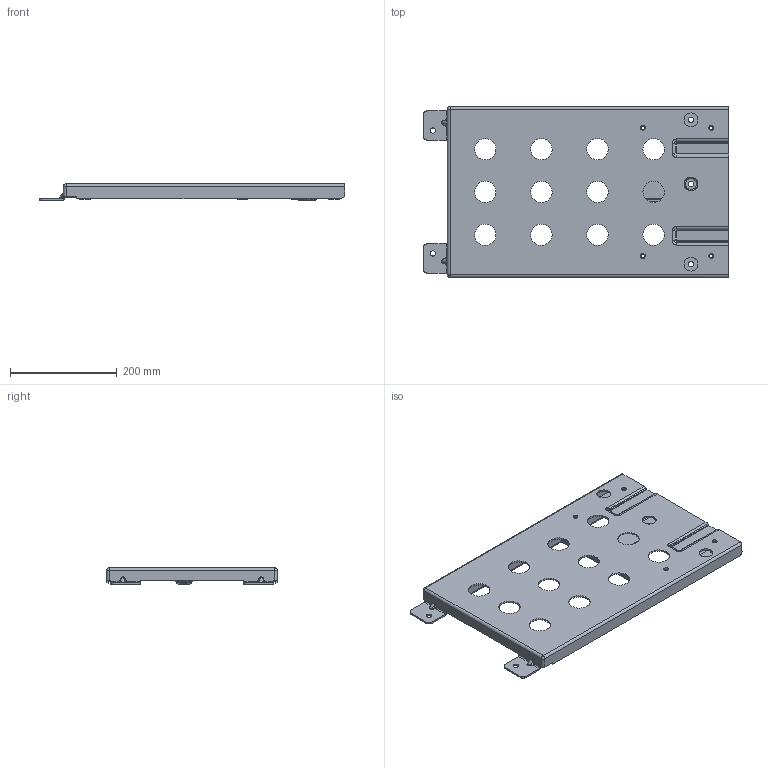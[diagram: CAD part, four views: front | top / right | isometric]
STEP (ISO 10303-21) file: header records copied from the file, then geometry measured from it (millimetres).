
FILE_DESCRIPTION(('CATIA V5 STEP Exchange'),'2;1');
FILE_NAME('E:\吉利商用车G3\3D\新开件\SHT0015318.stp','2022-12-12T02:28:13+00:00',('none'),('none'),'CATIA Version 5 Release 20 GA (IN-10)','CATIA V5 STEP AP214','none');
FILE_SCHEMA(('AUTOMOTIVE_DESIGN { 1 0 10303 214 1 1 1 1 }'));
Products named in the file (1): fujiabiaopei
Bounding box: 571.5 x 320 x 30.51 mm (x, y, z)
Volume: 838522.8 mm3; surface area: 622492.9 mm2
Topology: 47 solids, 47 shells, 996 faces, 2472 edges, 1548 vertices
Faces by surface type: plane 454, cylinder 292, cone 106, torus 48, bspline 44, sphere 36, extrusion 16
Entity records: 46486 total; most frequent: CARTESIAN_POINT 24491, ORIENTED_EDGE 4880, DIRECTION 3516, EDGE_CURVE 2440, VERTEX_POINT 1548, AXIS2_PLACEMENT_3D 1351, VECTOR 1280, LINE 1264
